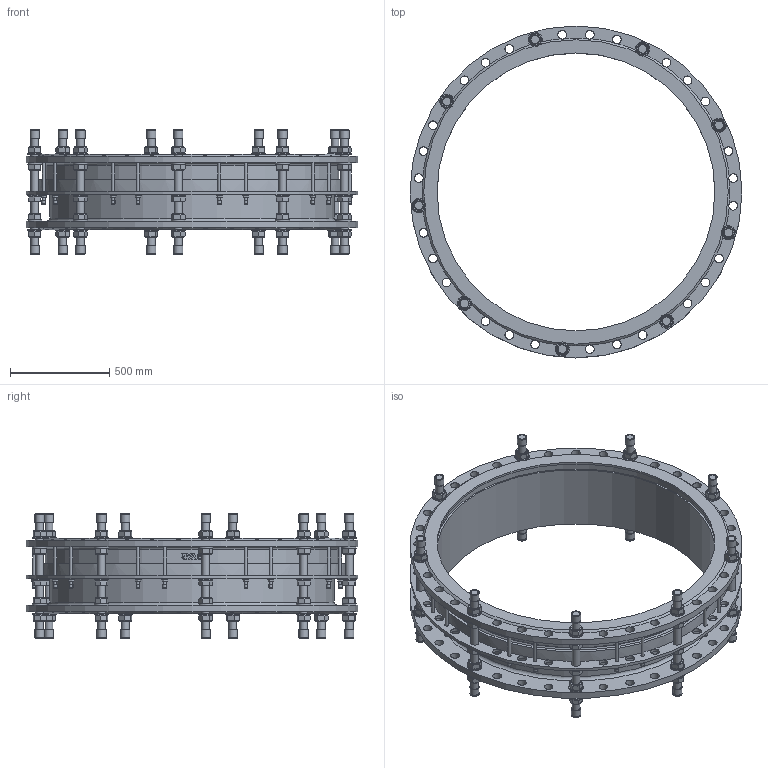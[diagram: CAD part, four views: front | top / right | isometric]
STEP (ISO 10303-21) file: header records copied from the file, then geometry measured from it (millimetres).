
FILE_DESCRIPTION(('STEP AP242'), '1');
FILE_NAME('Ìîíòàæíàÿ âñòàâêà', '', ('UNSPECIFIED'), ('UNSPECIFIED'), 'C3D Converter', 'C3D Toolkit', '');
FILE_SCHEMA(('AP242_MANAGED_MODEL_BASED_3D_ENGINEERING_MIM_LF { 1 0 10303 442 1 1 4 }'));
Length unit declared in the file: millimetre
Products named in the file (13): ШМ.М16.310; ШМ.М16.206
Assembly tree (193 placements, depth 2):
  (unnamed)
    (unnamed)
    (unnamed)
    (unnamed)
    (unnamed)
    (unnamed)  x45
    (unnamed)  x45
    ШМ.М16.310  x9
    (unnamed)  x18
    (unnamed)  x18
    (unnamed)  x18
    ШМ.М16.206  x18
    (unnamed)  x18
Bounding box: 1672 x 1672 x 627.8 mm (x, y, z)
Volume: 103519582.9 mm3; surface area: 11731230.8 mm2
Topology: 197 solids, 197 shells, 1672 faces, 3717 edges, 2392 vertices
Faces by surface type: plane 857, cylinder 454, cone 312, torus 38, extrusion 11
Full cylindrical faces by diameter (mm): 16 x72, 17 x18, 18 x18, 19.2 x18, 30 x18, 33.221 x1, 39 x72, 40 x45, 44 x108, 46.8 x18, 72 x45, 1400 x2, 1432 x2, 1448 x2, 1480 x1, 1496 x1, 1514 x1, 1546 x1, 1672 x3
Entity records: 26024 total; most frequent: CARTESIAN_POINT 11637, DIRECTION 2256, ORIENTED_EDGE 1634, AXIS2_PLACEMENT_3D 1091, EDGE_CURVE 817, EDGE_LOOP 731, VERTEX_POINT 656, CIRCLE 602
